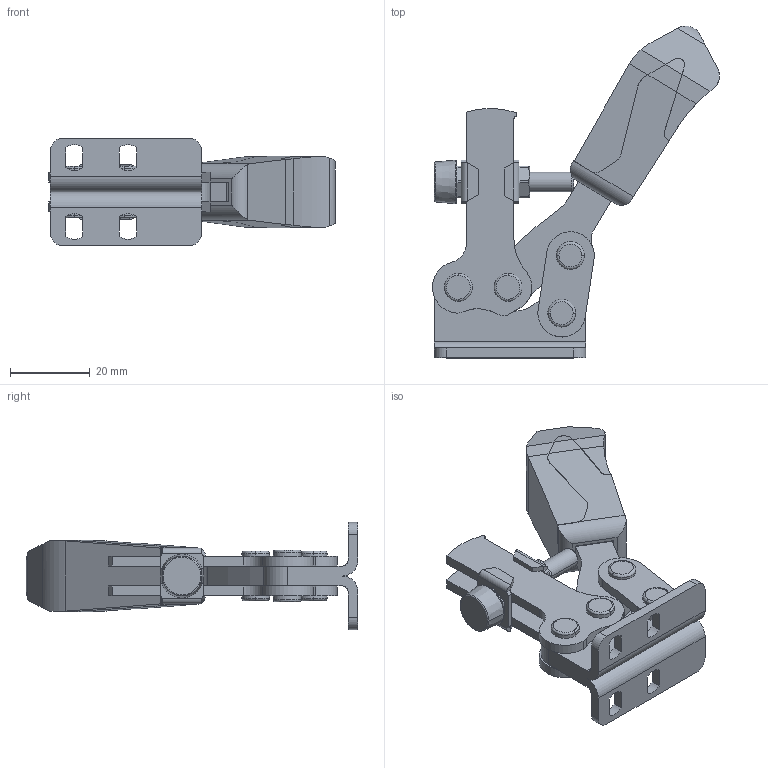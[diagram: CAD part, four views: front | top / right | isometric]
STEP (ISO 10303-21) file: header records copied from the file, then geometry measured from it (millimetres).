
FILE_DESCRIPTION (( 'STEP AP214' ), '1' );
FILE_NAME ('HWS201_1_open.STEP', '2020-05-13T06:06:17', ( '' ), ( '' ), 'SwSTEP 2.0', 'SolidWorks 2018', '' );
FILE_SCHEMA (( 'AUTOMOTIVE_DESIGN' ));
Length unit declared in the file: millimetre
Products named in the file (8): _AMF404368; _AMF552552-6_90; _AMF552698-12; HWS201_1_open; _AMF552552_1; _AMF552698-13; _AMF552552-3_90; _AMF552552_2
Assembly tree (7 placements, depth 2):
  HWS201_1_open
    _AMF552552_1
    _AMF552552_2
    _AMF552552-3_90
    _AMF404368
    _AMF552698-12
    _AMF552698-13
    _AMF552552-6_90
Bounding box: 72.18 x 83.47 x 27 mm (x, y, z)
Volume: 27462 mm3; surface area: 16901 mm2
Topology: 7 solids, 7 shells, 335 faces, 874 edges, 571 vertices
Faces by surface type: plane 159, cylinder 144, bspline 24, cone 8
Entity records: 11516 total; most frequent: CARTESIAN_POINT 2680, ORIENTED_EDGE 1748, DIRECTION 1672, EDGE_CURVE 874, AXIS2_PLACEMENT_3D 595, VERTEX_POINT 571, LINE 482, VECTOR 482
